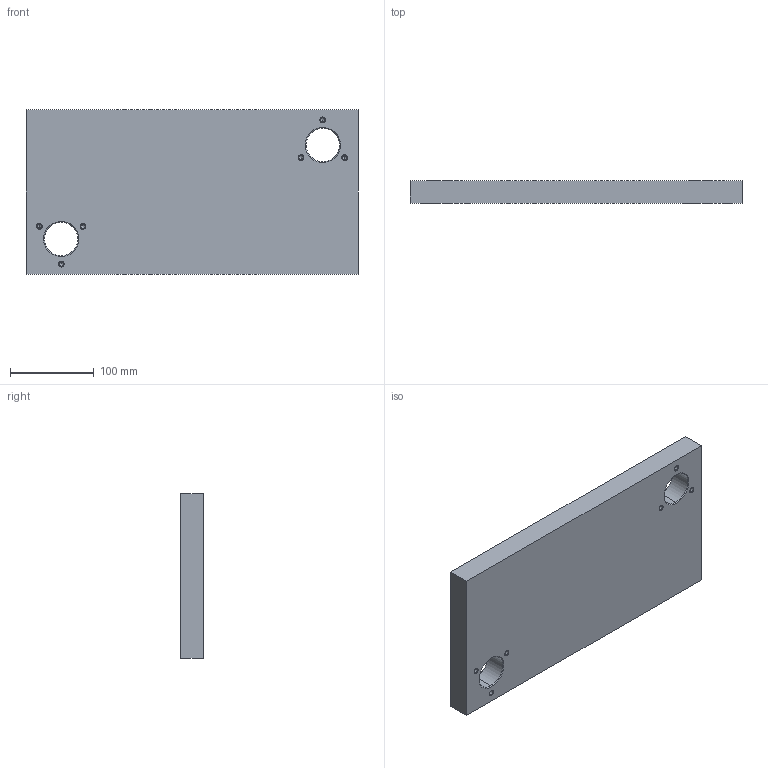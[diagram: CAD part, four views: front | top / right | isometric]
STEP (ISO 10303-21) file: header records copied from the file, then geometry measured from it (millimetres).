
FILE_DESCRIPTION (( 'STEP AP214' ), '1' );
FILE_NAME ('SDS300-C3-196x396x27.STEP', '2020-09-21T09:47:11', ( 'August' ), ( '' ), 'SwSTEP 2.0', 'SolidWorks 2018', '' );
FILE_SCHEMA (( 'AUTOMOTIVE_DESIGN' ));
Length unit declared in the file: millimetre
Products named in the file (1): SDS300-C3-196x396x27
Bounding box: 396 x 27 x 196 mm (x, y, z)
Volume: 2024546.1 mm3; surface area: 190637.7 mm2
Topology: 1 solids, 1 shells, 72 faces, 160 edges, 90 vertices
Faces by surface type: cone 32, cylinder 28, plane 12
Entity records: 1942 total; most frequent: DIRECTION 370, CARTESIAN_POINT 311, ORIENTED_EDGE 296, AXIS2_PLACEMENT_3D 149, EDGE_CURVE 148, VERTEX_POINT 90, EDGE_LOOP 88, CIRCLE 76
